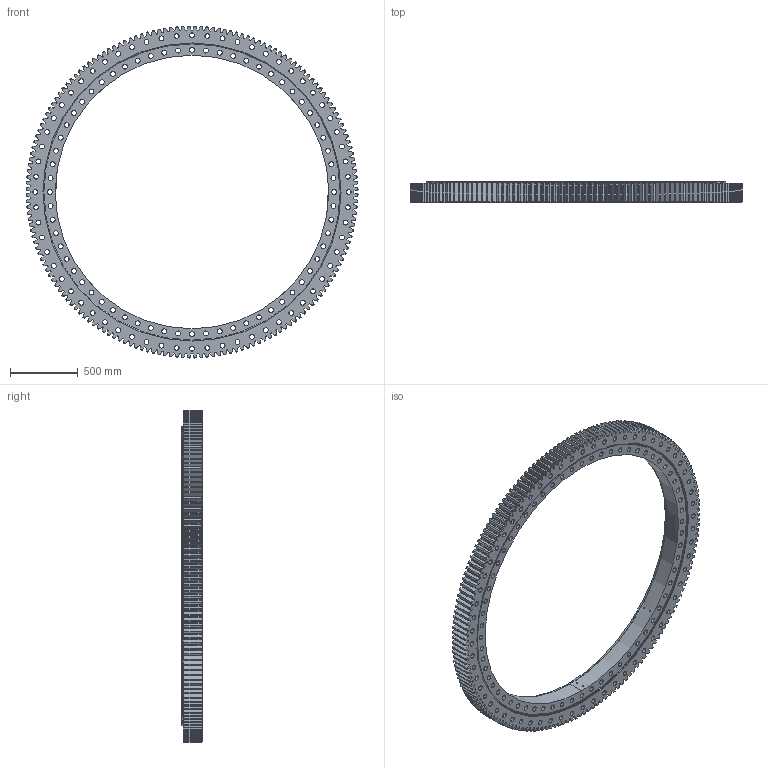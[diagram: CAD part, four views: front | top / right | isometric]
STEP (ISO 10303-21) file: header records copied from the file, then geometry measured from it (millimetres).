
FILE_DESCRIPTION (( 'STEP AP214' ), '1' );
FILE_NAME ('B2240-2-2447AA.STEP', '2022-11-28T14:58:36', ( '' ), ( '' ), 'SwSTEP 2.0', 'SolidWorks 2020', '' );
FILE_SCHEMA (( 'AUTOMOTIVE_DESIGN' ));
Length unit declared in the file: millimetre
Products named in the file (1): B2240-2-2447AA
Bounding box: 2446.99 x 150 x 2446.99 mm (x, y, z)
Volume: 177931829.9 mm3; surface area: 10180427.1 mm2
Topology: 4 solids, 4 shells, 1591 faces, 4672 edges, 3114 vertices
Faces by surface type: plane 721, cylinder 518, cone 352
Entity records: 56439 total; most frequent: CARTESIAN_POINT 14652, ORIENTED_EDGE 9344, DIRECTION 7910, EDGE_CURVE 4672, VERTEX_POINT 3114, AXIS2_PLACEMENT_3D 2918, VECTOR 2074, LINE 2074
